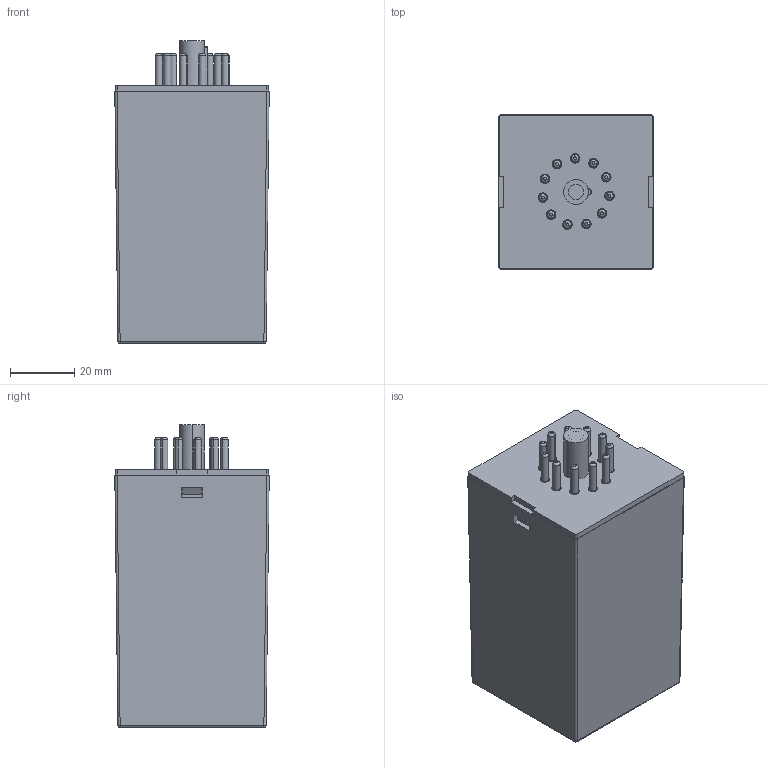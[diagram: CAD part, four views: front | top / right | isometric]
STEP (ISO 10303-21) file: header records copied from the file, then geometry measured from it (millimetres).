
FILE_DESCRIPTION (( 'STEP AP214' ), '1' );
FILE_NAME ('Conjunt PP50U.STEP', '2018-07-03T08:36:00', ( 'aaa' ), ( '' ), 'SwSTEP 2.0', 'SolidWorks 2013', '' );
FILE_SCHEMA (( 'AUTOMOTIVE_DESIGN' ));
Length unit declared in the file: millimetre
Products named in the file (5): Tapa amb conectors PP50U; Conector PP50U; Tapa sense conectors PP50U; Caixa PP50U; Conjunt PP50U
Assembly tree (14 placements, depth 3):
  Conjunt PP50U
    Caixa PP50U
    Tapa amb conectors PP50U
      Tapa sense conectors PP50U
      Conector PP50U  x11
Bounding box: 48.2 x 48.2 x 94.6 mm (x, y, z)
Volume: 36407 mm3; surface area: 44688.5 mm2
Topology: 13 solids, 13 shells, 390 faces, 958 edges, 625 vertices
Faces by surface type: cylinder 197, plane 154, torus 24, sphere 15
Entity records: 8624 total; most frequent: CARTESIAN_POINT 1634, DIRECTION 1448, ORIENTED_EDGE 1410, EDGE_CURVE 705, AXIS2_PLACEMENT_3D 513, VERTEX_POINT 463, VECTOR 422, LINE 422
